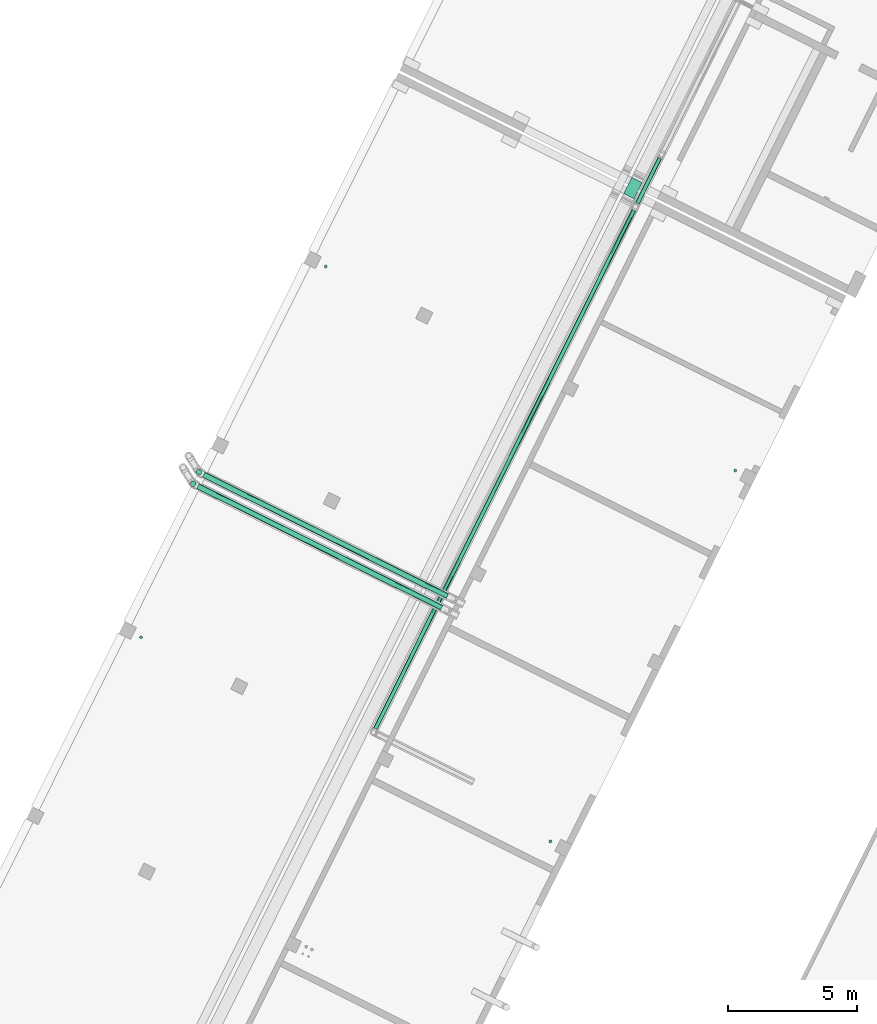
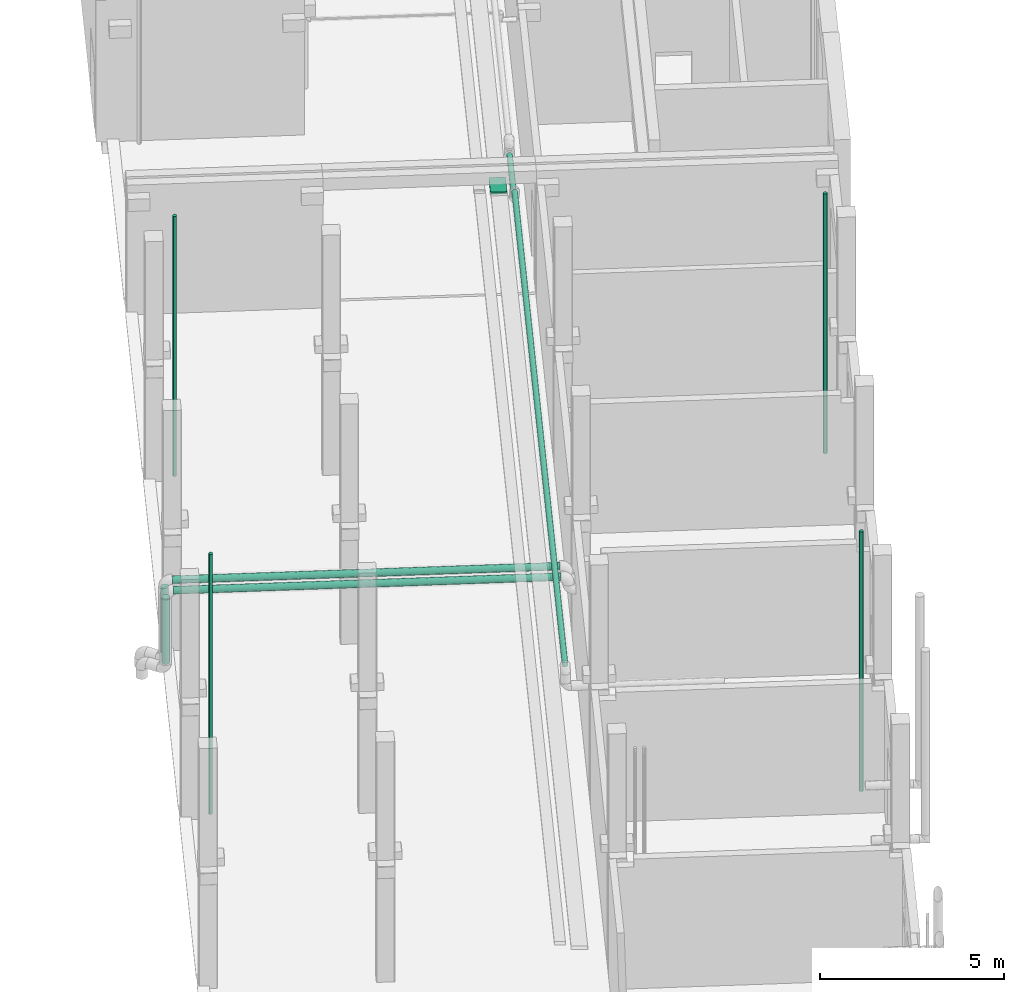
# One storey, part 62 of 91: 11 flow segments.
"""IFC2X3 building model written with IfcOpenShell, lengths in metres."""

from ifc_helpers import new_model, entity, si_unit, converted_unit, derived_unit, direction, frame, frame_2d, origin, origin_2d_with_axis, place, context, subcontext, project, spatial, rectangle, circle, extrude, type_object, element, save


model = new_model("IFC2X3")

# Units and contexts
model_context = context("Model", 3, precision=1e-05, world=origin(), true_north=direction((0.894925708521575, 0.446215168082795)))
context_of_model = context(None, 3, precision=1e-05, world=origin(), true_north=direction((0.894925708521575, 0.446215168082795)))
body_context = subcontext(model_context, "Body", "Model", "MODEL_VIEW")
ifc_project = project(units=[si_unit("LENGTHUNIT", "METRE"), si_unit("AREAUNIT", "SQUARE_METRE"), si_unit("VOLUMEUNIT", "CUBIC_METRE"), converted_unit("PLANEANGLEUNIT", "DEGREE", entity("IfcRatioMeasure", 0.0174532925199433), si_unit("PLANEANGLEUNIT", "RADIAN"), dimensions=[0, 0, 0, 0, 0, 0, 0]), si_unit("MASSUNIT", "GRAM", prefix="KILO"), si_unit("TIMEUNIT", "SECOND"), si_unit("FREQUENCYUNIT", "HERTZ"), si_unit("THERMODYNAMICTEMPERATUREUNIT", "DEGREE_CELSIUS"), derived_unit("THERMALTRANSMITTANCEUNIT", [(si_unit("MASSUNIT", "GRAM", prefix="KILO"), 1), (si_unit("THERMODYNAMICTEMPERATUREUNIT", "KELVIN"), -1), (si_unit("TIMEUNIT", "SECOND"), -3)]), derived_unit("VOLUMETRICFLOWRATEUNIT", [(si_unit("LENGTHUNIT", "METRE"), 3), (si_unit("TIMEUNIT", "SECOND"), -1)]), si_unit("ELECTRICCURRENTUNIT", "AMPERE"), si_unit("ELECTRICVOLTAGEUNIT", "VOLT"), si_unit("POWERUNIT", "WATT"), si_unit("FORCEUNIT", "NEWTON", prefix="KILO"), si_unit("ILLUMINANCEUNIT", "LUX"), si_unit("LUMINOUSFLUXUNIT", "LUMEN"), si_unit("LUMINOUSINTENSITYUNIT", "CANDELA"), si_unit("PRESSUREUNIT", "PASCAL")], contexts=[model_context, context_of_model])

# Site, building, storey
site_placement = place(None, frame((218.228324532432, 584.720189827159, 0.0), z_axis=(0.0, 0.0, 1.0), x_axis=(0.446215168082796, 0.894925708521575, 0.0)))
site = spatial("IfcSite", under=ifc_project, at=site_placement, Name="Default", CompositionType="ELEMENT")
building_placement = place(site_placement, origin())
building = spatial("IfcBuilding", under=site, at=building_placement, CompositionType="ELEMENT")
storey_placement = place(building_placement, origin())
storey = spatial("IfcBuildingStorey", under=building, at=storey_placement, Name="0 - Piano Terra", CompositionType="ELEMENT", Elevation=0.0)

# Flow segments
pipe_segment_type_1 = type_object("IfcPipeSegmentType", Name="Tubazione:Pluviale-Tubazione", PredefinedType="NOTDEFINED")
for number, where, name in (
    (1, (-36.9070051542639, 5.24017573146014, 0.0), "Tubazione:Pluviale-Tubazione"),
    (2, (-20.8977743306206, 5.24017573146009, 0.0), "Tubazione:Pluviale-Tubazione"),
):
    element("IfcFlowSegment", number, at=place(storey_placement, frame(where)), inside=storey, type_object=pipe_segment_type_1, Name=name, ObjectType="Tubazione:Pluviale-Tubazione", context=body_context, shape_type="SweptSolid", body=[
        extrude(circle(Radius=0.05715, at=origin_2d_with_axis()), frame((0.0587452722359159, 0.0587452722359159, 0.0)), (0.0, 0.0, 1.0), 8.61),
    ])
for number, where, name in (
    (3, (-36.9070051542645, -12.4398242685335, 0.0), "Tubazione:Pluviale-Tubazione"),
    (4, (-20.8977743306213, -12.4398242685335, 0.0), "Tubazione:Pluviale-Tubazione"),
):
    element("IfcFlowSegment", number, at=place(storey_placement, frame(where)), inside=storey, type_object=pipe_segment_type_1, Name=name, ObjectType="Tubazione:Pluviale-Tubazione", context=body_context, shape_type="SweptSolid", body=[
        extrude(circle(Radius=0.05715, at=origin_2d_with_axis()), frame((0.0587452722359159, 0.0587452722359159, 0.0)), (0.0, 0.0, 1.0), 8.6),
    ])
pipe_segment_type_2 = type_object("IfcPipeSegmentType", Name="Tubazione:Teleriscaldamento-Tubazione", PredefinedType="NOTDEFINED")
flow_segment_1_placement = place(storey_placement, frame((-30.2533532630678, 6.02778853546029, 0.702999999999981)))
element("IfcFlowSegment", 5, at=flow_segment_1_placement, inside=storey, type_object=pipe_segment_type_2, Name="Tubazione:Teleriscaldamento-Tubazione", ObjectType="Tubazione:Teleriscaldamento-Tubazione", context=body_context, shape_type="SweptSolid", body=[
    extrude(circle(Radius=0.1095375, at=origin_2d_with_axis()), frame((0.111132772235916, 0.111132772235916, 0.0), z_axis=(0.0, 0.0, 1.0), x_axis=(-1.0, 0.0, 0.0)), (0.0, 0.0, 1.0), 2.17000000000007),
])
flow_segment_2_placement = place(storey_placement, frame((-30.2533532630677, -4.59574555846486, 2.96486722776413)))
element("IfcFlowSegment", 6, at=flow_segment_2_placement, inside=storey, type_object=pipe_segment_type_2, Name="Tubazione:Teleriscaldamento-Tubazione", ObjectType="Tubazione:Teleriscaldamento-Tubazione", context=body_context, shape_type="SweptSolid", body=[
    extrude(circle(Radius=0.1095375, at=frame_2d((-3.89832166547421e-14, 0.0), x_axis=(1.0, 0.0))), frame((0.111132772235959, 0.0, 0.111132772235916), z_axis=(0.0, 1.0, 0.0), x_axis=(-1.0, 0.0, 0.0)), (0.0, 0.0, 1.0), 10.5316668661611),
])
flow_segment_3_placement = place(storey_placement, frame((-30.7533532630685, 6.0277885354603, 0.702999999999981)))
element("IfcFlowSegment", 7, at=flow_segment_3_placement, inside=storey, type_object=pipe_segment_type_2, Name="Tubazione:Teleriscaldamento-Tubazione", ObjectType="Tubazione:Teleriscaldamento-Tubazione", context=body_context, shape_type="SweptSolid", body=[
    extrude(circle(Radius=0.1095375, at=origin_2d_with_axis()), frame((0.111132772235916, 0.111132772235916, 0.0), z_axis=(0.0, 0.0, 1.0), x_axis=(-1.0, 0.0, 0.0)), (0.0, 0.0, 1.0), 2.17000000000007),
])
flow_segment_4_placement = place(storey_placement, frame((-30.7533532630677, -4.59574555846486, 2.96486722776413)))
element("IfcFlowSegment", 8, at=flow_segment_4_placement, inside=storey, type_object=pipe_segment_type_2, Name="Tubazione:Teleriscaldamento-Tubazione", ObjectType="Tubazione:Teleriscaldamento-Tubazione", context=body_context, shape_type="SweptSolid", body=[
    extrude(circle(Radius=0.1095375, at=frame_2d((-3.89832166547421e-14, 0.0), x_axis=(1.0, 0.0))), frame((0.111132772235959, 0.0, 0.111132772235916), z_axis=(0.0, 1.0, 0.0), x_axis=(-1.0, 0.0, 0.0)), (0.0, 0.0, 1.0), 10.5316668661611),
])
pipe_segment_type_3 = type_object("IfcPipeSegmentType", Name="Tubazione:Riscaldamento-Tubazione", PredefinedType="NOTDEFINED")
flow_segment_5_placement = place(storey_placement, frame((-35.9708523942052, -4.47094926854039, 3.81426722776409)))
element("IfcFlowSegment", 9, at=flow_segment_5_placement, inside=storey, type_object=pipe_segment_type_3, Name="Tubazione:Riscaldamento-Tubazione", ObjectType="Tubazione:Riscaldamento-Tubazione", context=body_context, shape_type="SweptSolid", body=[
    extrude(circle(Radius=0.0841375, at=frame_2d((5.41433564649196e-16, 0.0), x_axis=(1.0, 0.0))), frame((0.0, 0.0857327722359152, 0.0857327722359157), z_axis=(1.0, 0.0, 0.0), x_axis=(0.0, 1.0, 0.0)), (0.0, 0.0, 1.0), 22.3897783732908),
])
flow_segment_6_placement = place(storey_placement, frame((-13.2770740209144, -4.47094926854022, 3.46426722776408)))
element("IfcFlowSegment", 10, at=flow_segment_6_placement, inside=storey, type_object=pipe_segment_type_3, Name="Tubazione:Riscaldamento-Tubazione", ObjectType="Tubazione:Riscaldamento-Tubazione", context=body_context, shape_type="SweptSolid", body=[
    extrude(circle(Radius=0.0841375, at=frame_2d((5.41433564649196e-16, 0.0), x_axis=(1.0, 0.0))), frame((0.0, 0.0857327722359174, 0.0857327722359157), z_axis=(1.0, 0.0, 0.0), x_axis=(0.0, -1.0, 0.0)), (0.0, 0.0, 1.0), 1.94600000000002),
])
cable_carrier_segment_type = type_object("IfcCableCarrierSegmentType", Name="Passerella con raccordi:Passerella canale", PredefinedType="NOTDEFINED")
flow_segment_7_placement = place(storey_placement, frame((-13.1843892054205, -4.20107899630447, 3.5627510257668)))
element("IfcFlowSegment", 11, at=flow_segment_7_placement, inside=storey, type_object=cable_carrier_segment_type, Name="Passerella con raccordi:Passerella canale", ObjectType="Passerella con raccordi:Passerella canale", context=body_context, shape_type="SweptSolid", body=[
    extrude(rectangle(XDim=0.699999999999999, YDim=0.450000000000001, at=frame_2d((-1.08246744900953e-15, -5.41233724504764e-16), x_axis=(1.0, 0.0))), frame((0.350000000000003, 0.225000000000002, 0.0)), (0.0, 0.0, 1.0), 0.0750000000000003),
])

save(model, "model.ifc")
